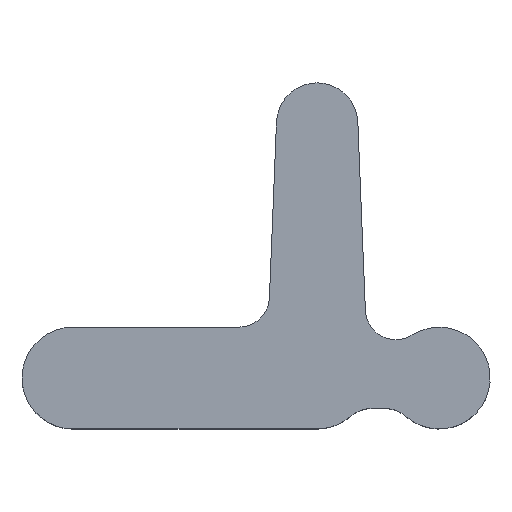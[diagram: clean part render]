
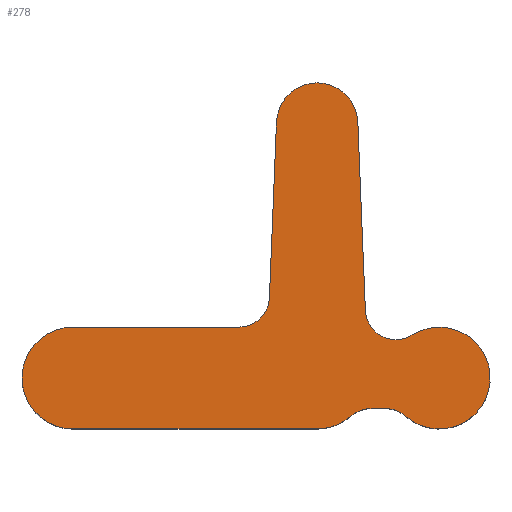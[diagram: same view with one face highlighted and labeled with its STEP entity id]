
A CAD part, top view. The second image highlights one B-rep face of the part: STEP entity #278.
In plain terms, the highlighted planar face has unit normal (0, 0, 1).
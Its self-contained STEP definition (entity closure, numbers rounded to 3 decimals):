
#20=PLANE('',#323);
#35=FACE_OUTER_BOUND('',#50,.T.);
#50=EDGE_LOOP('',(#231,#232,#233,#234,#235,#236,#237,#238,#239,#240,#241,
#242,#243));
#56=LINE('',#432,#79);
#60=LINE('',#444,#83);
#64=LINE('',#456,#87);
#68=LINE('',#468,#91);
#74=LINE('',#490,#97);
#79=VECTOR('',#345,10.);
#83=VECTOR('',#357,10.);
#87=VECTOR('',#369,10.);
#91=VECTOR('',#381,10.);
#97=VECTOR('',#407,10.);
#99=CIRCLE('',#296,15.);
#101=CIRCLE('',#299,25.);
#103=CIRCLE('',#303,25.);
#105=CIRCLE('',#307,15.);
#107=CIRCLE('',#311,20.);
#109=CIRCLE('',#315,15.);
#111=CIRCLE('',#318,25.);
#113=CIRCLE('',#321,15.);
#116=VERTEX_POINT('',#417);
#117=VERTEX_POINT('',#419);
#119=VERTEX_POINT('',#425);
#121=VERTEX_POINT('',#431);
#123=VERTEX_POINT('',#437);
#125=VERTEX_POINT('',#443);
#127=VERTEX_POINT('',#449);
#129=VERTEX_POINT('',#455);
#131=VERTEX_POINT('',#461);
#133=VERTEX_POINT('',#467);
#135=VERTEX_POINT('',#473);
#137=VERTEX_POINT('',#479);
#139=VERTEX_POINT('',#485);
#142=EDGE_CURVE('',#117,#116,#99,.T.);
#145=EDGE_CURVE('',#119,#117,#101,.T.);
#148=EDGE_CURVE('',#121,#119,#56,.T.);
#151=EDGE_CURVE('',#123,#121,#103,.T.);
#154=EDGE_CURVE('',#125,#123,#60,.T.);
#157=EDGE_CURVE('',#127,#125,#105,.T.);
#160=EDGE_CURVE('',#129,#127,#64,.T.);
#163=EDGE_CURVE('',#131,#129,#107,.T.);
#166=EDGE_CURVE('',#133,#131,#68,.T.);
#169=EDGE_CURVE('',#135,#133,#109,.T.);
#172=EDGE_CURVE('',#137,#135,#111,.T.);
#175=EDGE_CURVE('',#139,#137,#113,.T.);
#178=EDGE_CURVE('',#116,#139,#74,.T.);
#231=ORIENTED_EDGE('',*,*,#178,.T.);
#232=ORIENTED_EDGE('',*,*,#175,.T.);
#233=ORIENTED_EDGE('',*,*,#172,.T.);
#234=ORIENTED_EDGE('',*,*,#169,.T.);
#235=ORIENTED_EDGE('',*,*,#166,.T.);
#236=ORIENTED_EDGE('',*,*,#163,.T.);
#237=ORIENTED_EDGE('',*,*,#160,.T.);
#238=ORIENTED_EDGE('',*,*,#157,.T.);
#239=ORIENTED_EDGE('',*,*,#154,.T.);
#240=ORIENTED_EDGE('',*,*,#151,.T.);
#241=ORIENTED_EDGE('',*,*,#148,.T.);
#242=ORIENTED_EDGE('',*,*,#145,.T.);
#243=ORIENTED_EDGE('',*,*,#142,.T.);
#278=ADVANCED_FACE('',(#35),#20,.T.);
#296=AXIS2_PLACEMENT_3D('',#420,#332,#333);
#299=AXIS2_PLACEMENT_3D('',#426,#339,#340);
#303=AXIS2_PLACEMENT_3D('',#438,#351,#352);
#307=AXIS2_PLACEMENT_3D('',#450,#363,#364);
#311=AXIS2_PLACEMENT_3D('',#462,#375,#376);
#315=AXIS2_PLACEMENT_3D('',#474,#387,#388);
#318=AXIS2_PLACEMENT_3D('',#480,#394,#395);
#321=AXIS2_PLACEMENT_3D('',#486,#401,#402);
#323=AXIS2_PLACEMENT_3D('',#491,#408,#409);
#332=DIRECTION('center_axis',(0.,0.,-1.));
#333=DIRECTION('ref_axis',(0.,1.,0.));
#339=DIRECTION('center_axis',(0.,0.,1.));
#340=DIRECTION('ref_axis',(0.,-1.,0.));
#345=DIRECTION('',(1.,0.,0.));
#351=DIRECTION('center_axis',(0.,0.,1.));
#352=DIRECTION('ref_axis',(0.,1.,0.));
#357=DIRECTION('',(-1.,0.,0.));
#363=DIRECTION('center_axis',(0.,0.,-1.));
#364=DIRECTION('ref_axis',(0.,-1.,0.));
#369=DIRECTION('',(-0.04,-0.999,0.));
#375=DIRECTION('center_axis',(0.,0.,1.));
#376=DIRECTION('ref_axis',(0.999,0.04,0.));
#381=DIRECTION('',(-0.04,0.999,0.));
#387=DIRECTION('center_axis',(0.,0.,-1.));
#388=DIRECTION('ref_axis',(-0.999,-0.04,0.));
#394=DIRECTION('center_axis',(0.,0.,1.));
#395=DIRECTION('ref_axis',(-0.661,-0.75,0.));
#401=DIRECTION('center_axis',(0.,0.,-1.));
#402=DIRECTION('ref_axis',(0.661,0.75,0.));
#407=DIRECTION('',(1.,0.,0.));
#408=DIRECTION('center_axis',(0.,0.,1.));
#409=DIRECTION('ref_axis',(1.,0.,0.));
#417=CARTESIAN_POINT('',(26.458,-140.,95.));
#419=CARTESIAN_POINT('',(16.536,-143.75,95.));
#420=CARTESIAN_POINT('Origin',(26.458,-155.,95.));
#425=CARTESIAN_POINT('',(0.,-150.,95.));
#426=CARTESIAN_POINT('Origin',(0.,-125.,95.));
#431=CARTESIAN_POINT('',(-120.,-150.,95.));
#432=CARTESIAN_POINT('',(-120.,-150.,95.));
#437=CARTESIAN_POINT('',(-120.,-100.,95.));
#438=CARTESIAN_POINT('Origin',(-120.,-125.,95.));
#443=CARTESIAN_POINT('',(-38.431,-100.,95.));
#444=CARTESIAN_POINT('',(-38.431,-100.,95.));
#449=CARTESIAN_POINT('',(-23.443,-85.6,95.));
#450=CARTESIAN_POINT('Origin',(-38.431,-85.,95.));
#455=CARTESIAN_POINT('',(-19.984,0.8,95.));
#456=CARTESIAN_POINT('',(-19.984,0.8,95.));
#461=CARTESIAN_POINT('',(19.984,0.8,95.));
#462=CARTESIAN_POINT('Origin',(0.,0.,95.));
#467=CARTESIAN_POINT('',(23.689,-91.757,95.));
#468=CARTESIAN_POINT('',(23.689,-91.757,95.));
#473=CARTESIAN_POINT('',(46.673,-103.848,95.));
#474=CARTESIAN_POINT('Origin',(38.677,-91.157,95.));
#479=CARTESIAN_POINT('',(43.464,-143.75,95.));
#480=CARTESIAN_POINT('Origin',(60.,-125.,95.));
#485=CARTESIAN_POINT('',(33.542,-140.,95.));
#486=CARTESIAN_POINT('Origin',(33.542,-155.,95.));
#490=CARTESIAN_POINT('',(26.458,-140.,95.));
#491=CARTESIAN_POINT('Origin',(-30.,-65.,95.));
